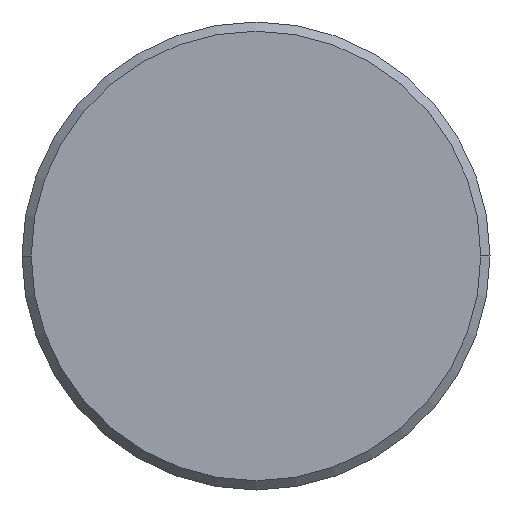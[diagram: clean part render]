
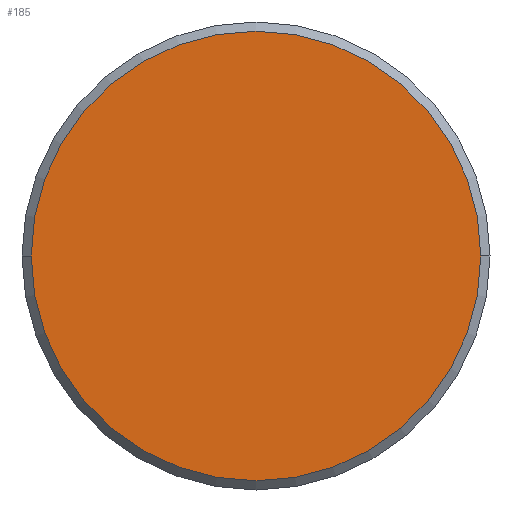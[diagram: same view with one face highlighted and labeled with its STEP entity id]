
A CAD part, left-side view. The second image highlights one B-rep face of the part: STEP entity #185.
In plain terms, the highlighted planar face has unit normal (-1, 0, 0).
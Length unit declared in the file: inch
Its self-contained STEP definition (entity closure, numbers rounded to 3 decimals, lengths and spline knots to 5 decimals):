
#24 = DIRECTION ( 'NONE',  ( 0., -1., 0. ) ) ;
#40 = AXIS2_PLACEMENT_3D ( 'NONE', #78, #90, #24 ) ;
#48 = ORIENTED_EDGE ( 'NONE', *, *, #326, .T. ) ;
#61 = AXIS2_PLACEMENT_3D ( 'NONE', #118, #318, #343 ) ;
#78 = CARTESIAN_POINT ( 'NONE',  ( 0., 0., 0. ) ) ;
#90 = DIRECTION ( 'NONE',  ( -1., 0., 0. ) ) ;
#116 = DIRECTION ( 'NONE',  ( -1., 0., 0. ) ) ;
#118 = CARTESIAN_POINT ( 'NONE',  ( 0., 0., 0. ) ) ;
#120 = CARTESIAN_POINT ( 'NONE',  ( 0., 0., 0. ) ) ;
#129 = EDGE_LOOP ( 'NONE', ( #221, #48 ) ) ;
#140 = VERTEX_POINT ( 'NONE', #199 ) ;
#144 = AXIS2_PLACEMENT_3D ( 'NONE', #120, #116, #263 ) ;
#169 = CIRCLE ( 'NONE', #40, 0.09756 ) ;
#175 = CARTESIAN_POINT ( 'NONE',  ( 0., -0.09756, 0. ) ) ;
#185 = ADVANCED_FACE ( 'NONE', ( #380 ), #335, .T. ) ;
#199 = CARTESIAN_POINT ( 'NONE',  ( 0., 0.09756, 0. ) ) ;
#221 = ORIENTED_EDGE ( 'NONE', *, *, #378, .T. ) ;
#235 = CIRCLE ( 'NONE', #144, 0.09756 ) ;
#240 = VERTEX_POINT ( 'NONE', #175 ) ;
#263 = DIRECTION ( 'NONE',  ( 0., -1., 0. ) ) ;
#318 = DIRECTION ( 'NONE',  ( -1., 0., 0. ) ) ;
#326 = EDGE_CURVE ( 'NONE', #240, #140, #169, .T. ) ;
#335 = PLANE ( 'NONE',  #61 ) ;
#343 = DIRECTION ( 'NONE',  ( 0., -1., 0. ) ) ;
#378 = EDGE_CURVE ( 'NONE', #140, #240, #235, .T. ) ;
#380 = FACE_OUTER_BOUND ( 'NONE', #129, .T. ) ;
